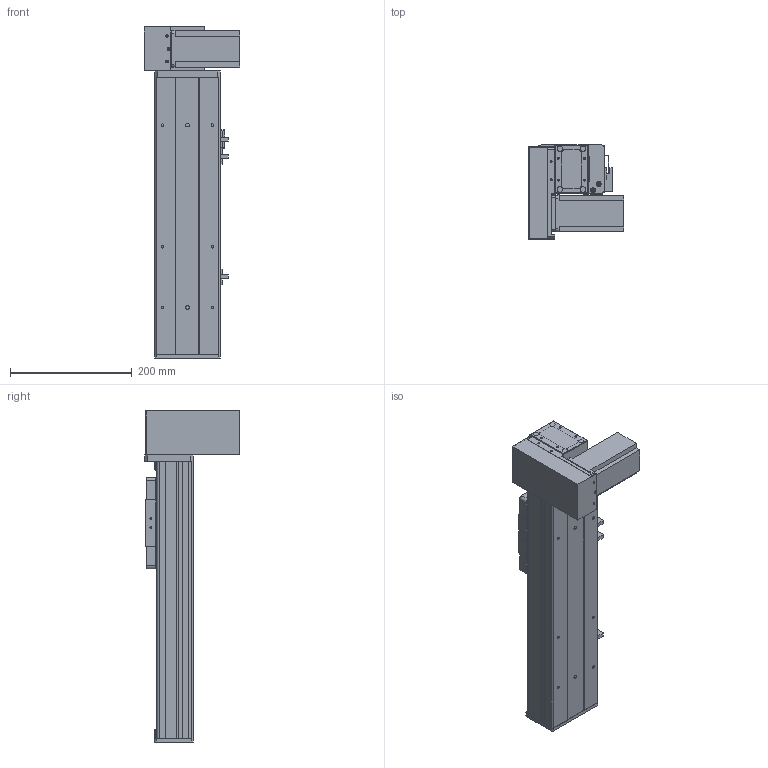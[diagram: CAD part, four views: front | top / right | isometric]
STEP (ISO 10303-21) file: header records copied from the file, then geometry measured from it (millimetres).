
FILE_DESCRIPTION (( 'STEP AP203' ), '1' );
FILE_NAME ('Y10CB-D90-S200-BM-P400W.STEP', '2020-02-16T08:42:32', ( '微软用户' ), ( '微软中国' ), 'SwSTEP 2.0', 'SolidWorks 2017', '' );
FILE_SCHEMA (( 'CONFIG_CONTROL_DESIGN' ));
Length unit declared in the file: millimetre
Products named in the file (18): Y10CB-D90-S200-BM-P400W; Y10C---詩湍揤啣; 0Cb-俋欶---; 10CB9-掛极; Y10B-々湍喘謫眊楊擘啣--; 10CB-耜裔; 0B-萇儂楊擘啣; Y135C-陔俋离換覜結え-; san松下电机400不带刹车----; Y100-135俋离換覜ん--; 0B-源倛裔啣; Y10B--々湍喘謫眊--666; 0B-埴倛裔啣; 00B-俋欶BM--; 10CB-詩湍-; Y10B-耜蚾蟀諉啣----; Y10CB- 掛极耜裔啣-毀---; 0CB-雄赽釱---
Assembly tree (21 placements, depth 2):
  Y10CB-D90-S200-BM-P400W
    0CB-雄赽釱---
    0Cb-俋欶---
    Y10B-々湍喘謫眊楊擘啣--
    0B-萇儂楊擘啣
    san松下电机400不带刹车----
    0B-源倛裔啣
    0B-埴倛裔啣
    10CB-詩湍-
    Y10CB- 掛极耜裔啣-毀---  x2
    Y10C---詩湍揤啣  x2
    10CB9-掛极
    10CB-耜裔
    Y135C-陔俋离換覜結え-
    Y100-135俋离換覜ん--  x3
    Y10B--々湍喘謫眊--666
    00B-俋欶BM--
    Y10B-耜蚾蟀諉啣----
Bounding box: 157 x 156 x 546 mm (x, y, z)
Volume: 1739890.6 mm3; surface area: 707267.6 mm2
Topology: 21 solids, 21 shells, 942 faces, 2483 edges, 1634 vertices
Faces by surface type: plane 469, cylinder 449, cone 24
Entity records: 28912 total; most frequent: CARTESIAN_POINT 4877, DIRECTION 4726, ORIENTED_EDGE 4436, EDGE_CURVE 2218, AXIS2_PLACEMENT_3D 1693, VERTEX_POINT 1460, LINE 1340, VECTOR 1340
